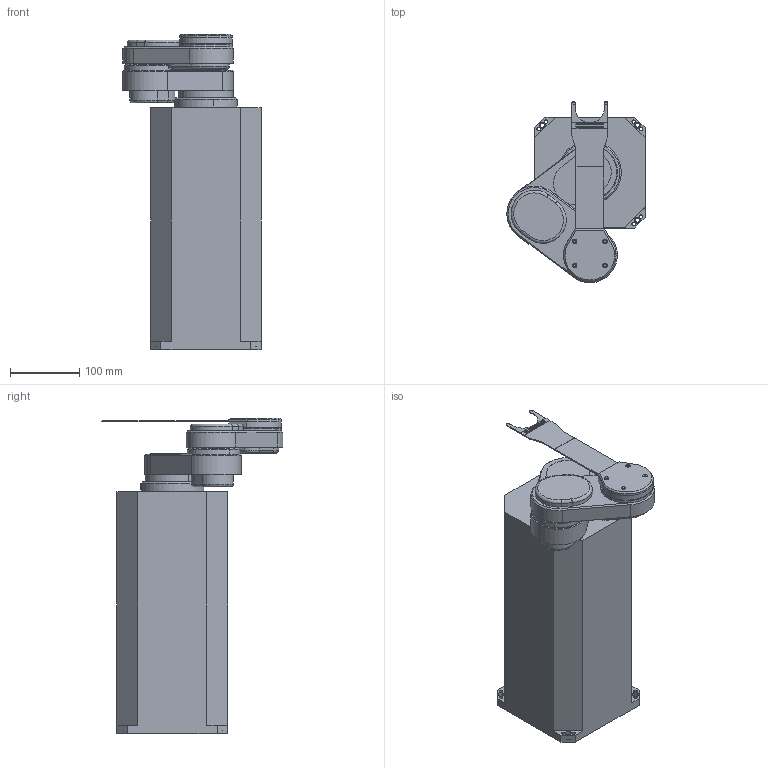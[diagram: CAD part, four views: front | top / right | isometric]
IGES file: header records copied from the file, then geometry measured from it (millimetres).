
Global section: file name: No Iges File Name specified; native system: Autodesk Inventor 2011; preprocessor: AutoDesk Inventor Iges Exporter R2011; author: a-yamamoto; date: 20110909.092415; units: millimetre
Bounding box: 199.98 x 262.53 x 456.1 mm (x, y, z)
Volume: 9441305.5 mm3; surface area: 512773.7 mm2
Topology: 7 solids, 7 shells, 277 faces, 659 edges, 423 vertices
Faces by surface type: plane 137, bspline 55, cylinder 44, revolution 21, cone 13, torus 7
